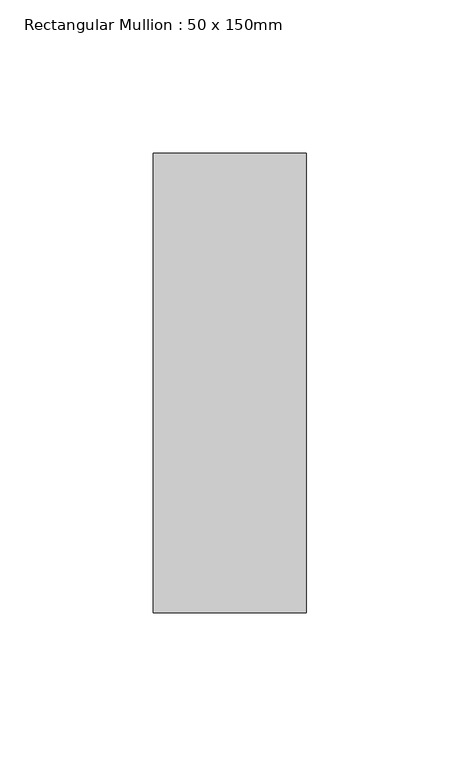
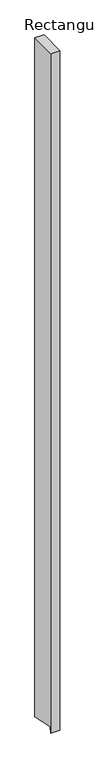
"""IFC4 building model written with IfcOpenShell, lengths in millimetres: member geometry, Rectangular Mullion : 50 x 150mm."""

from ifc_helpers import new_model, si_unit, frame, origin, place, context, project, spatial, polyline, outline, extrude, source, transform, mapped, element, save


def rectangular_mullion_50_x_150mm_6b01f5a5(model_context):
    return source(origin(), model_context, "Body", "SweptSolid", [
        extrude(outline(polyline([(-75.0, 0.0), (75.0, 0.0), (75.0, -3939.7937927), (-68.4846923, -3910.5051026), (-75.0, -3942.4234614), (-75.0, 0.0)])), frame((-50.0, 0.0, 0.0), z_axis=(1.0, 0.0, 0.0), x_axis=(0.0, 1.0, 0.0)), (0.0, 0.0, 1.0), 50.0),
    ])


if __name__ == "__main__":
    model = new_model("IFC4")
    model_context = context("Model", 3, world=origin())
    ifc_project = project(units=[si_unit("LENGTHUNIT", "METRE", prefix="MILLI")], contexts=[model_context])
    site = spatial("IfcSite", under=ifc_project)
    building = spatial("IfcBuilding", under=site)
    placement = place(None, origin())
    rectangular_mullion_50_x_150mm_shape = rectangular_mullion_50_x_150mm_6b01f5a5(model_context)
    element("IfcMember", 1, ObjectType="Rectangular Mullion : 50 x 150mm", at=placement, inside=building, context=model_context, shape_type="MappedRepresentation", body=[
        mapped(rectangular_mullion_50_x_150mm_shape, transform((0.0, 0.0, 0.0), x_axis=(1.0, 0.0, 0.0), y_axis=(0.0, 1.0, 0.0), z_axis=(0.0, 0.0, 1.0))),
    ])
    save(model, "model.ifc")
